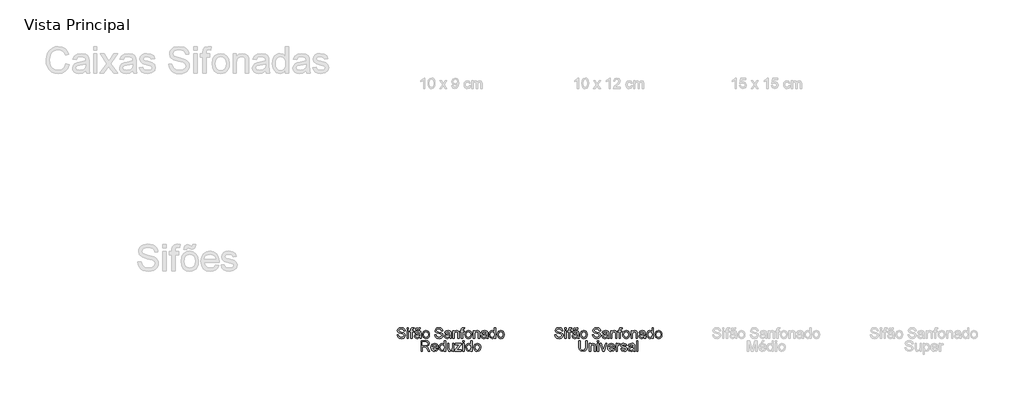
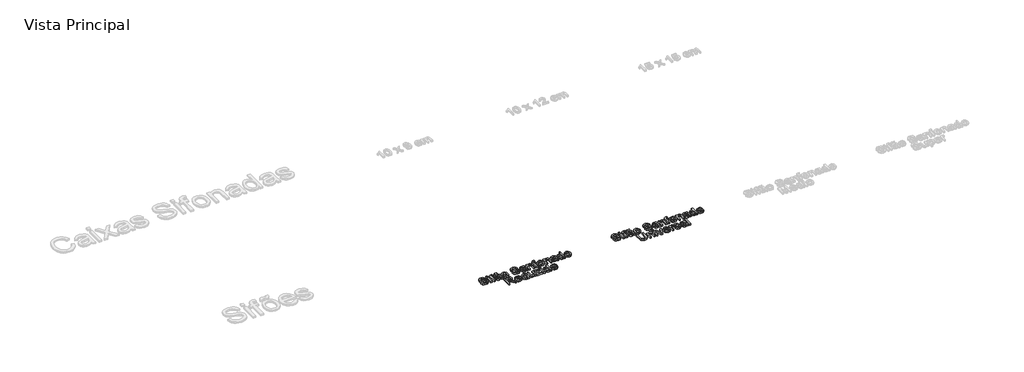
# One storey, part 2 of 5: 2 proxies.
"""IFC4 building model written with IfcOpenShell, lengths in millimetres."""

from ifc_helpers import new_model, si_unit, origin, origin_with_axes, place, context, project, spatial, polyline, outline, extrude, element, save

model = new_model("IFC4")

# Units and contexts
model_context = context("Model", 3, world=origin())
ifc_project = project(units=[si_unit("LENGTHUNIT", "METRE", prefix="MILLI")], contexts=[model_context])

# Site, building, storey
site = spatial("IfcSite", under=ifc_project)
building = spatial("IfcBuilding", under=site)
storey = spatial("IfcBuildingStorey", under=building, Name="Vista Principal", Elevation=0.0)

# Proxies
placement = place(None, origin())
element("IfcBuildingElementProxy", 1, Name="Texto", ObjectType="Texto", at=placement, inside=storey, context=model_context, shape_type="SweptSolid", body=[
    extrude(outline(polyline([(-984.9026785, -1818.6887424), (-977.3684552, -1818.6887424), (-974.940434, -1826.2303233), (-969.0101763, -1830.998074), (-959.9749945, -1832.8154111), (-952.1023198, -1831.4395324), (-947.0181906, -1827.6577055), (-945.3480063, -1822.6030069), (-946.5988051, -1817.901475), (-951.7197225, -1814.4801724), (-962.6899636, -1811.6033352), (-974.4989756, -1807.8877271), (-980.90748, -1802.2812055), (-983.0191226, -1794.791128), (-980.4071605, -1786.2636234), (-972.7772879, -1780.2450739), (-961.6083905, -1778.1922924), (-949.6890139, -1780.3407233), (-941.7427628, -1786.6535783), (-938.755561, -1796.0860727), (-946.2897842, -1796.0860727), (-950.5572154, -1788.3458355), (-961.3140849, -1785.7265157), (-972.100385, -1788.3164049), (-975.4848994, -1794.5703988), (-973.0863088, -1799.7943232), (-960.7843349, -1804.0028932), (-947.4522914, -1807.7847201), (-940.1608702, -1813.8915612), (-937.8137831, -1822.4117082), (-940.5140369, -1831.4248171), (-948.2837047, -1838.0025472), (-959.6806889, -1840.3496343), (-973.1378123, -1837.8186062), (-981.6506016, -1830.1960912), (-984.9026785, -1818.6887424)])), origin_with_axes(), (0.0, 0.0, 1.0), 10.0),
    extrude(outline(polyline([(-927.4542261, -1839.4078564), (-927.4542261, -1795.1442947), (-919.9200028, -1795.1442947), (-919.9200028, -1839.4078564), (-927.4542261, -1839.4078564)])), origin_with_axes(), (0.0, 0.0, 1.0), 10.0),
    extrude(outline(polyline([(-927.4542261, -1786.6682936), (-927.4542261, -1779.1340703), (-919.9200028, -1779.1340703), (-919.9200028, -1786.6682936), (-927.4542261, -1786.6682936)])), origin_with_axes(), (0.0, 0.0, 1.0), 10.0),
    extrude(outline(polyline([(-906.7351121, -1839.4078564), (-906.7351121, -1802.678518), (-913.3275575, -1802.678518), (-913.3275575, -1795.1442947), (-906.7351121, -1795.1442947), (-906.7351121, -1790.685565), (-905.940487, -1784.4021405), (-902.0850837, -1779.9139801), (-894.4919993, -1778.1922924), (-887.6199637, -1779.0163481), (-888.7236096, -1786.0796824), (-893.0646172, -1785.7265157), (-897.8102949, -1786.9773145), (-899.2008889, -1791.6420582), (-899.2008889, -1795.1442947), (-890.7248877, -1795.1442947), (-890.7248877, -1802.678518), (-899.2008889, -1802.678518), (-899.2008889, -1839.4078564), (-906.7351121, -1839.4078564)])), origin_with_axes(), (0.0, 0.0, 1.0), 10.0),
    extrude(outline(polyline([(-855.8791051, -1833.757189), (-863.1852415, -1838.8633911), (-871.2565725, -1840.3496343), (-882.197383, -1836.7738213), (-886.0159982, -1827.6356326), (-884.5739007, -1821.6759442), (-880.7847162, -1817.349652), (-875.5092884, -1814.877485), (-868.9904194, -1813.7444084), (-855.923251, -1811.1545192), (-855.8791051, -1809.4769773), (-857.9539596, -1803.9146015), (-866.2828079, -1801.7367401), (-873.9053229, -1803.1861952), (-877.539997, -1808.3291855), (-885.0742202, -1807.3874075), (-881.8147858, -1800.0297676), (-875.251771, -1795.7181907), (-865.3115995, -1794.2025168), (-856.1807683, -1795.5416073), (-851.0230628, -1798.9040487), (-848.7127638, -1804.0176085), (-848.3448819, -1810.6100538), (-848.3448819, -1819.9836871), (-847.9622846, -1833.0729284), (-846.461326, -1839.4078564), (-853.9955493, -1839.4078564), (-855.8791051, -1833.757189)]), holes=[polyline([(-855.8791051, -1818.6887424), (-868.0339262, -1820.9990414), (-874.516007, -1822.2204096), (-877.4517053, -1824.2069724), (-878.4817749, -1827.1058825), (-876.2376947, -1831.182015), (-869.652607, -1832.8154111), (-862.0300921, -1831.0127893), (-857.1151886, -1826.6497088), (-855.923251, -1820.822458), (-855.8791051, -1818.6887424)])]), origin_with_axes(), (0.0, 0.0, 1.0), 10.0),
    extrude(outline(polyline([(-879.4235528, -1790.4354052), (-877.0838233, -1782.2095638), (-871.0947044, -1779.1340703), (-865.0614397, -1781.5620915), (-862.0153768, -1782.9011819), (-860.4187689, -1782.143345), (-859.6462167, -1779.1340703), (-853.0537714, -1779.1340703), (-855.4450044, -1787.6100715), (-861.2207517, -1790.4354052), (-867.18044, -1788.1398216), (-870.3589404, -1786.6682936), (-872.1542046, -1787.6247868), (-872.8311074, -1790.4354052), (-879.4235528, -1790.4354052)])), origin_with_axes(), (0.0, 0.0, 1.0), 10.0),
    extrude(outline(polyline([(-839.8688807, -1817.2760756), (-838.2391634, -1806.6038189), (-833.3500117, -1799.102705), (-820.0768293, -1794.2025168), (-812.1618482, -1795.6942783), (-805.8397961, -1800.1695628), (-801.6956055, -1807.2752035), (-800.3142086, -1816.6580338), (-802.756945, -1830.0636537), (-809.8717828, -1837.6493805), (-820.0768293, -1840.3496343), (-828.0874598, -1838.8633911), (-834.4021542, -1834.4046613), (-838.5021991, -1827.1500283), (-839.8688807, -1817.2760756)]), holes=[polyline([(-832.3346574, -1817.2613603), (-828.8471361, -1828.9379348), (-820.0768293, -1832.8154111), (-811.3359531, -1828.9158619), (-807.8484318, -1817.0259158), (-811.3580261, -1805.6142163), (-820.0768293, -1801.7367401), (-828.8471361, -1805.599501), (-832.3346574, -1817.2613603)])]), origin_with_axes(), (0.0, 0.0, 1.0), 10.0),
    extrude(outline(polyline([(-770.1773155, -1818.6887424), (-762.6430923, -1818.6887424), (-760.2150711, -1826.2303233), (-754.2848133, -1830.998074), (-745.2496315, -1832.8154111), (-737.3769568, -1831.4395324), (-732.2928277, -1827.6577055), (-730.6226434, -1822.6030069), (-731.8734422, -1817.901475), (-736.9943596, -1814.4801724), (-747.9646006, -1811.6033352), (-759.7736127, -1807.8877271), (-766.182117, -1802.2812055), (-768.2937597, -1794.791128), (-765.6817975, -1786.2636234), (-758.051925, -1780.2450739), (-746.8830276, -1778.1922924), (-734.9636509, -1780.3407233), (-727.0173998, -1786.6535783), (-724.030198, -1796.0860727), (-731.5644213, -1796.0860727), (-735.8318524, -1788.3458355), (-746.588722, -1785.7265157), (-757.3750221, -1788.3164049), (-760.7595364, -1794.5703988), (-758.3609458, -1799.7943232), (-746.0589719, -1804.0028932), (-732.7269284, -1807.7847201), (-725.4355073, -1813.8915612), (-723.0884201, -1822.4117082), (-725.788674, -1831.4248171), (-733.5583417, -1838.0025472), (-744.9553259, -1840.3496343), (-758.4124493, -1837.8186062), (-766.9252387, -1830.1960912), (-770.1773155, -1818.6887424)])), origin_with_axes(), (0.0, 0.0, 1.0), 10.0),
    extrude(outline(polyline([(-684.4755259, -1833.757189), (-691.7816623, -1838.8633911), (-699.8529933, -1840.3496343), (-710.7938039, -1836.7738213), (-714.612419, -1827.6356326), (-713.1703215, -1821.6759442), (-709.381137, -1817.349652), (-704.1057092, -1814.877485), (-697.5868402, -1813.7444084), (-684.5196718, -1811.1545192), (-684.4755259, -1809.4769773), (-686.5503804, -1803.9146015), (-694.8792287, -1801.7367401), (-702.5017437, -1803.1861952), (-706.1364178, -1808.3291855), (-713.6706411, -1807.3874075), (-710.4112066, -1800.0297676), (-703.8481918, -1795.7181907), (-693.9080203, -1794.2025168), (-684.7771892, -1795.5416073), (-679.6194836, -1798.9040487), (-677.3091847, -1804.0176085), (-676.9413027, -1810.6100538), (-676.9413027, -1819.9836871), (-676.5587054, -1833.0729284), (-675.0577468, -1839.4078564), (-682.5919701, -1839.4078564), (-684.4755259, -1833.757189)]), holes=[polyline([(-684.4755259, -1818.6887424), (-696.630347, -1820.9990414), (-703.1124278, -1822.2204096), (-706.0481261, -1824.2069724), (-707.0781957, -1827.1058825), (-704.8341155, -1831.182015), (-698.2490278, -1832.8154111), (-690.6265129, -1831.0127893), (-685.7116094, -1826.6497088), (-684.5196718, -1820.822458), (-684.4755259, -1818.6887424)])]), origin_with_axes(), (0.0, 0.0, 1.0), 10.0),
    extrude(outline(polyline([(-666.5817457, -1839.4078564), (-666.5817457, -1795.1442947), (-659.0475224, -1795.1442947), (-659.0475224, -1801.3247123), (-653.2864904, -1795.9830657), (-645.4211733, -1794.2025168), (-638.3063355, -1795.6372566), (-633.4502932, -1799.4043683), (-631.1914977, -1804.9446711), (-630.7941852, -1812.2287346), (-630.7941852, -1839.4078564), (-638.3284084, -1839.4078564), (-638.3284084, -1813.2440889), (-639.19661, -1806.5780672), (-642.2647458, -1803.0537576), (-647.4371666, -1801.7367401), (-655.6115046, -1804.6945113), (-659.0475224, -1815.9222698), (-659.0475224, -1839.4078564), (-666.5817457, -1839.4078564)])), origin_with_axes(), (0.0, 0.0, 1.0), 10.0),
    extrude(outline(polyline([(-618.5510724, -1839.4078564), (-618.5510724, -1802.678518), (-625.1435177, -1802.678518), (-625.1435177, -1795.1442947), (-618.5510724, -1795.1442947), (-618.5510724, -1790.685565), (-617.7564473, -1784.4021405), (-613.901044, -1779.9139801), (-606.3079596, -1778.1922924), (-599.4359239, -1779.0163481), (-600.5395699, -1786.0796824), (-604.8805774, -1785.7265157), (-609.6262552, -1786.9773145), (-611.0168491, -1791.6420582), (-611.0168491, -1795.1442947), (-602.540848, -1795.1442947), (-602.540848, -1802.678518), (-611.0168491, -1802.678518), (-611.0168491, -1839.4078564), (-618.5510724, -1839.4078564)])), origin_with_axes(), (0.0, 0.0, 1.0), 10.0),
    extrude(outline(polyline([(-597.8319584, -1817.2760756), (-596.2022412, -1806.6038189), (-591.3130895, -1799.102705), (-578.0399071, -1794.2025168), (-570.1249259, -1795.6942783), (-563.8028739, -1800.1695628), (-559.6586832, -1807.2752035), (-558.2772863, -1816.6580338), (-560.7200227, -1830.0636537), (-567.8348605, -1837.6493805), (-578.0399071, -1840.3496343), (-586.0505375, -1838.8633911), (-592.365232, -1834.4046613), (-596.4652768, -1827.1500283), (-597.8319584, -1817.2760756)]), holes=[polyline([(-590.2977352, -1817.2613603), (-586.8102138, -1828.9379348), (-578.0399071, -1832.8154111), (-569.2990309, -1828.9158619), (-565.8115096, -1817.0259158), (-569.3211038, -1805.6142163), (-578.0399071, -1801.7367401), (-586.8102138, -1805.599501), (-590.2977352, -1817.2613603)])]), origin_with_axes(), (0.0, 0.0, 1.0), 10.0),
    extrude(outline(polyline([(-549.8012851, -1839.4078564), (-549.8012851, -1795.1442947), (-542.2670619, -1795.1442947), (-542.2670619, -1801.3247123), (-536.5060298, -1795.9830657), (-528.6407128, -1794.2025168), (-521.525875, -1795.6372566), (-516.6698326, -1799.4043683), (-514.4110372, -1804.9446711), (-514.0137246, -1812.2287346), (-514.0137246, -1839.4078564), (-521.5479479, -1839.4078564), (-521.5479479, -1813.2440889), (-522.4161494, -1806.5780672), (-525.4842852, -1803.0537576), (-530.6567061, -1801.7367401), (-538.831044, -1804.6945113), (-542.2670619, -1815.9222698), (-542.2670619, -1839.4078564), (-549.8012851, -1839.4078564)])), origin_with_axes(), (0.0, 0.0, 1.0), 10.0),
    extrude(outline(polyline([(-475.4008304, -1833.757189), (-482.7069668, -1838.8633911), (-490.7782978, -1840.3496343), (-501.7191084, -1836.7738213), (-505.5377235, -1827.6356326), (-504.095626, -1821.6759442), (-500.3064415, -1817.349652), (-495.0310137, -1814.877485), (-488.5121447, -1813.7444084), (-475.4449763, -1811.1545192), (-475.4008304, -1809.4769773), (-477.4756849, -1803.9146015), (-485.8045332, -1801.7367401), (-493.4270482, -1803.1861952), (-497.0617223, -1808.3291855), (-504.5959456, -1807.3874075), (-501.3365111, -1800.0297676), (-494.7734963, -1795.7181907), (-484.8333248, -1794.2025168), (-475.7024937, -1795.5416073), (-470.5447881, -1798.9040487), (-468.2344892, -1804.0176085), (-467.8666072, -1810.6100538), (-467.8666072, -1819.9836871), (-467.4840099, -1833.0729284), (-465.9830513, -1839.4078564), (-473.5172746, -1839.4078564), (-475.4008304, -1833.757189)]), holes=[polyline([(-475.4008304, -1818.6887424), (-487.5556515, -1820.9990414), (-494.0377323, -1822.2204096), (-496.9734306, -1824.2069724), (-498.0035002, -1827.1058825), (-495.75942, -1831.182015), (-489.1743323, -1832.8154111), (-481.5518174, -1831.0127893), (-476.6369139, -1826.6497088), (-475.4449763, -1820.822458), (-475.4008304, -1818.6887424)])]), origin_with_axes(), (0.0, 0.0, 1.0), 10.0),
    extrude(outline(polyline([(-430.1954909, -1839.4078564), (-430.1954909, -1832.3003763), (-435.1802919, -1838.3373198), (-442.0707217, -1840.3496343), (-451.4002091, -1837.4360089), (-457.9926544, -1829.3058168), (-460.3323839, -1817.3202214), (-458.1765954, -1805.3272684), (-451.7165876, -1797.0719964), (-442.1001522, -1794.2025168), (-435.1545401, -1796.2552984), (-430.1954909, -1801.5895873), (-430.1954909, -1779.1340703), (-422.6612676, -1779.1340703), (-422.6612676, -1839.4078564), (-430.1954909, -1839.4078564)]), holes=[polyline([(-452.7981606, -1817.2907909), (-449.398931, -1828.9526501), (-441.3791035, -1832.8154111), (-433.4549253, -1829.1292335), (-430.1954909, -1817.8646868), (-433.5137864, -1805.6362892), (-441.6881244, -1801.7367401), (-449.6196602, -1805.4817788), (-452.7981606, -1817.2907909)])]), origin_with_axes(), (0.0, 0.0, 1.0), 10.0),
    extrude(outline(polyline([(-413.2434885, -1817.2760756), (-411.6137713, -1806.6038189), (-406.7246196, -1799.102705), (-393.4514372, -1794.2025168), (-385.536456, -1795.6942783), (-379.214404, -1800.1695628), (-375.0702133, -1807.2752035), (-373.6888164, -1816.6580338), (-376.1315528, -1830.0636537), (-383.2463906, -1837.6493805), (-393.4514372, -1840.3496343), (-401.4620676, -1838.8633911), (-407.7767621, -1834.4046613), (-411.8768069, -1827.1500283), (-413.2434885, -1817.2760756)]), holes=[polyline([(-405.7092653, -1817.2613603), (-402.2217439, -1828.9379348), (-393.4514372, -1832.8154111), (-384.710561, -1828.9158619), (-381.2230397, -1817.0259158), (-384.7326339, -1805.6142163), (-393.4514372, -1801.7367401), (-402.2217439, -1805.599501), (-405.7092653, -1817.2613603)])]), origin_with_axes(), (0.0, 0.0, 1.0), 10.0),
    extrude(outline(polyline([(-808.3193208, -1852.318961), (-800.7850975, -1852.318961), (-800.7850975, -1887.0911672), (-802.8305214, -1901.5047838), (-810.2028766, -1910.1867989), (-824.1823924, -1913.534525), (-837.9485367, -1910.6208996), (-845.5857669, -1902.1816867), (-847.8739929, -1887.0911672), (-847.8739929, -1852.318961), (-840.3397696, -1852.318961), (-840.3397696, -1886.8262922), (-838.8535264, -1898.3115681), (-833.7473243, -1903.9990237), (-824.8887258, -1906.0003018), (-812.1305782, -1902.0418915), (-808.3193208, -1886.8262922), (-808.3193208, -1852.318961)])), origin_with_axes(), (0.0, 0.0, 1.0), 10.0),
    extrude(outline(polyline([(-788.5419847, -1912.5927471), (-788.5419847, -1868.3291855), (-781.0077615, -1868.3291855), (-781.0077615, -1874.509603), (-775.2467294, -1869.1679564), (-767.3814124, -1867.3874075), (-760.2665746, -1868.8221473), (-755.4105322, -1872.589259), (-753.1517368, -1878.1295618), (-752.7544242, -1885.4136253), (-752.7544242, -1912.5927471), (-760.2886475, -1912.5927471), (-760.2886475, -1886.4289796), (-761.156849, -1879.7629579), (-764.2249848, -1876.2386484), (-769.3974057, -1874.9216308), (-777.5717436, -1877.879402), (-781.0077615, -1889.1071605), (-781.0077615, -1912.5927471), (-788.5419847, -1912.5927471)])), origin_with_axes(), (0.0, 0.0, 1.0), 10.0),
    extrude(outline(polyline([(-742.3948672, -1859.8531843), (-742.3948672, -1852.318961), (-734.860644, -1852.318961), (-734.860644, -1859.8531843), (-742.3948672, -1859.8531843)])), origin_with_axes(), (0.0, 0.0, 1.0), 10.0),
    extrude(outline(polyline([(-742.3948672, -1912.5927471), (-742.3948672, -1868.3291855), (-734.860644, -1868.3291855), (-734.860644, -1912.5927471), (-742.3948672, -1912.5927471)])), origin_with_axes(), (0.0, 0.0, 1.0), 10.0),
    extrude(outline(polyline([(-712.6994326, -1912.5927471), (-728.2681986, -1868.3291855), (-720.292517, -1868.3291855), (-710.8600226, -1894.8461197), (-708.0199736, -1903.7635792), (-705.2387857, -1895.3464392), (-695.7474303, -1868.3291855), (-687.7717486, -1868.3291855), (-703.149216, -1912.5927471), (-712.6994326, -1912.5927471)])), origin_with_axes(), (0.0, 0.0, 1.0), 10.0),
    extrude(outline(polyline([(-650.188924, -1899.4078564), (-642.8018535, -1900.3496343), (-649.7106774, -1910.0764343), (-662.5791896, -1913.534525), (-671.4193939, -1912.0427635), (-678.221532, -1907.5674791), (-682.5588607, -1900.3992984), (-684.004637, -1890.8288483), (-682.5441454, -1880.9365014), (-678.1626709, -1873.5383945), (-671.4525033, -1868.9251543), (-663.0059327, -1867.3874075), (-654.8223977, -1868.9214755), (-648.2832952, -1873.5236792), (-643.9956306, -1880.9070709), (-642.566409, -1890.7847024), (-642.6105549, -1892.8154111), (-676.4704137, -1892.8154111), (-672.1367638, -1902.6010721), (-662.4320368, -1906.0003018), (-655.0449663, -1904.4257668), (-650.188924, -1899.4078564)]), holes=[polyline([(-676.4704137, -1885.2811878), (-650.1006323, -1885.2811878), (-653.1172646, -1878.453298), (-663.0353632, -1874.9216308), (-672.3133472, -1877.7396069), (-676.4704137, -1885.2811878)])]), origin_with_axes(), (0.0, 0.0, 1.0), 10.0),
    extrude(outline(polyline([(-635.0321858, -1912.5927471), (-635.0321858, -1868.3291855), (-628.4397404, -1868.3291855), (-628.4397404, -1874.877485), (-623.7602814, -1868.8442202), (-619.0513919, -1867.3874075), (-611.4877381, -1869.7124218), (-614.0040509, -1876.4667352), (-619.3015517, -1874.9216308), (-623.5616252, -1876.4078741), (-626.2765943, -1880.5281524), (-627.4979625, -1889.3278897), (-627.4979625, -1912.5927471), (-635.0321858, -1912.5927471)])), origin_with_axes(), (0.0, 0.0, 1.0), 10.0),
    extrude(outline(polyline([(-609.6041823, -1899.4078564), (-602.069959, -1898.4660785), (-598.5824377, -1904.0578848), (-590.5920407, -1906.0003018), (-582.9106647, -1904.2197529), (-580.4090671, -1900.0406134), (-582.92538, -1896.6560991), (-590.6803324, -1894.5076682), (-602.0258132, -1890.8214906), (-606.9775048, -1886.5172713), (-608.6624044, -1880.4398607), (-607.3085986, -1874.8259815), (-603.6150634, -1870.5364774), (-598.8252398, -1868.3071125), (-592.343159, -1867.3874075), (-583.1755397, -1868.8662932), (-577.3482889, -1872.8688493), (-574.7583997, -1879.6305203), (-582.2926229, -1880.5722983), (-585.1253143, -1876.4152317), (-591.7545479, -1874.9216308), (-598.965035, -1876.3490129), (-601.1281811, -1879.6746662), (-600.230549, -1881.8672429), (-597.4199306, -1883.5300695), (-590.9304922, -1885.134035), (-579.8719594, -1888.6804174), (-574.7363268, -1892.6976888), (-572.8748439, -1899.2459883), (-575.0600629, -1906.4564754), (-581.3655603, -1911.6877574), (-590.6950477, -1913.534525), (-603.8357926, -1909.9734273), (-609.6041823, -1899.4078564)])), origin_with_axes(), (0.0, 0.0, 1.0), 10.0),
    extrude(outline(polyline([(-536.1455055, -1906.9420797), (-543.4516419, -1912.0482818), (-551.5229729, -1913.534525), (-562.4637834, -1909.958712), (-566.2823985, -1900.8205233), (-564.8403011, -1894.8608349), (-561.0511165, -1890.5345427), (-555.7756887, -1888.0623757), (-549.2568198, -1886.9292991), (-536.1896513, -1884.3394099), (-536.1455055, -1882.661868), (-538.2203599, -1877.0994922), (-546.5492083, -1874.9216308), (-554.1717232, -1876.3710859), (-557.8063973, -1881.5140762), (-565.3406206, -1880.5722983), (-562.0811861, -1873.2146583), (-555.5181713, -1868.9030814), (-545.5779998, -1867.3874075), (-536.4471687, -1868.726498), (-531.2894631, -1872.0889394), (-528.9791642, -1877.2024992), (-528.6112822, -1883.7949445), (-528.6112822, -1893.1685778), (-528.2286849, -1906.2578192), (-526.7277264, -1912.5927471), (-534.2619496, -1912.5927471), (-536.1455055, -1906.9420797)]), holes=[polyline([(-536.1455055, -1891.8736331), (-548.3003266, -1894.1839321), (-554.7824073, -1895.4053003), (-557.7181057, -1897.3918631), (-558.7481752, -1900.2907732), (-556.5040951, -1904.3669057), (-549.9190074, -1906.0003018), (-542.2964924, -1904.19768), (-537.381589, -1899.8345995), (-536.1896513, -1894.0073487), (-536.1455055, -1891.8736331)])]), origin_with_axes(), (0.0, 0.0, 1.0), 10.0),
    extrude(outline(polyline([(-518.2517252, -1912.5927471), (-518.2517252, -1852.318961), (-510.717502, -1852.318961), (-510.717502, -1912.5927471), (-518.2517252, -1912.5927471)])), origin_with_axes(), (0.0, 0.0, 1.0), 10.0),
])
element("IfcBuildingElementProxy", 2, Name="Texto", ObjectType="Texto", at=placement, inside=storey, context=model_context, shape_type="SweptSolid", body=[
    extrude(outline(polyline([(-1884.9026785, -1818.6887424), (-1877.3684552, -1818.6887424), (-1874.940434, -1826.2303233), (-1869.0101763, -1830.998074), (-1859.9749945, -1832.8154111), (-1852.1023198, -1831.4395324), (-1847.0181906, -1827.6577055), (-1845.3480063, -1822.6030069), (-1846.5988051, -1817.901475), (-1851.7197225, -1814.4801724), (-1862.6899636, -1811.6033352), (-1874.4989756, -1807.8877271), (-1880.90748, -1802.2812055), (-1883.0191226, -1794.791128), (-1880.4071605, -1786.2636234), (-1872.7772879, -1780.2450739), (-1861.6083905, -1778.1922924), (-1849.6890139, -1780.3407233), (-1841.7427628, -1786.6535783), (-1838.755561, -1796.0860727), (-1846.2897842, -1796.0860727), (-1850.5572154, -1788.3458355), (-1861.3140849, -1785.7265157), (-1872.100385, -1788.3164049), (-1875.4848994, -1794.5703988), (-1873.0863088, -1799.7943232), (-1860.7843349, -1804.0028932), (-1847.4522914, -1807.7847201), (-1840.1608702, -1813.8915612), (-1837.8137831, -1822.4117082), (-1840.5140369, -1831.4248171), (-1848.2837047, -1838.0025472), (-1859.6806889, -1840.3496343), (-1873.1378123, -1837.8186062), (-1881.6506016, -1830.1960912), (-1884.9026785, -1818.6887424)])), origin_with_axes(), (0.0, 0.0, 1.0), 10.0),
    extrude(outline(polyline([(-1827.4542261, -1839.4078564), (-1827.4542261, -1795.1442947), (-1819.9200028, -1795.1442947), (-1819.9200028, -1839.4078564), (-1827.4542261, -1839.4078564)])), origin_with_axes(), (0.0, 0.0, 1.0), 10.0),
    extrude(outline(polyline([(-1827.4542261, -1786.6682936), (-1827.4542261, -1779.1340703), (-1819.9200028, -1779.1340703), (-1819.9200028, -1786.6682936), (-1827.4542261, -1786.6682936)])), origin_with_axes(), (0.0, 0.0, 1.0), 10.0),
    extrude(outline(polyline([(-1806.7351121, -1839.4078564), (-1806.7351121, -1802.678518), (-1813.3275575, -1802.678518), (-1813.3275575, -1795.1442947), (-1806.7351121, -1795.1442947), (-1806.7351121, -1790.685565), (-1805.940487, -1784.4021405), (-1802.0850837, -1779.9139801), (-1794.4919993, -1778.1922924), (-1787.6199637, -1779.0163481), (-1788.7236096, -1786.0796824), (-1793.0646172, -1785.7265157), (-1797.8102949, -1786.9773145), (-1799.2008889, -1791.6420582), (-1799.2008889, -1795.1442947), (-1790.7248877, -1795.1442947), (-1790.7248877, -1802.678518), (-1799.2008889, -1802.678518), (-1799.2008889, -1839.4078564), (-1806.7351121, -1839.4078564)])), origin_with_axes(), (0.0, 0.0, 1.0), 10.0),
    extrude(outline(polyline([(-1755.8791051, -1833.757189), (-1763.1852415, -1838.8633911), (-1771.2565725, -1840.3496343), (-1782.197383, -1836.7738213), (-1786.0159982, -1827.6356326), (-1784.5739007, -1821.6759442), (-1780.7847162, -1817.349652), (-1775.5092884, -1814.877485), (-1768.9904194, -1813.7444084), (-1755.923251, -1811.1545192), (-1755.8791051, -1809.4769773), (-1757.9539596, -1803.9146015), (-1766.2828079, -1801.7367401), (-1773.9053229, -1803.1861952), (-1777.539997, -1808.3291855), (-1785.0742202, -1807.3874075), (-1781.8147858, -1800.0297676), (-1775.251771, -1795.7181907), (-1765.3115995, -1794.2025168), (-1756.1807683, -1795.5416073), (-1751.0230628, -1798.9040487), (-1748.7127638, -1804.0176085), (-1748.3448819, -1810.6100538), (-1748.3448819, -1819.9836871), (-1747.9622846, -1833.0729284), (-1746.461326, -1839.4078564), (-1753.9955493, -1839.4078564), (-1755.8791051, -1833.757189)]), holes=[polyline([(-1755.8791051, -1818.6887424), (-1768.0339262, -1820.9990414), (-1774.516007, -1822.2204096), (-1777.4517053, -1824.2069724), (-1778.4817749, -1827.1058825), (-1776.2376947, -1831.182015), (-1769.652607, -1832.8154111), (-1762.0300921, -1831.0127893), (-1757.1151886, -1826.6497088), (-1755.923251, -1820.822458), (-1755.8791051, -1818.6887424)])]), origin_with_axes(), (0.0, 0.0, 1.0), 10.0),
    extrude(outline(polyline([(-1779.4235528, -1790.4354052), (-1777.0838233, -1782.2095638), (-1771.0947044, -1779.1340703), (-1765.0614397, -1781.5620915), (-1762.0153768, -1782.9011819), (-1760.4187689, -1782.143345), (-1759.6462167, -1779.1340703), (-1753.0537714, -1779.1340703), (-1755.4450044, -1787.6100715), (-1761.2207517, -1790.4354052), (-1767.18044, -1788.1398216), (-1770.3589404, -1786.6682936), (-1772.1542046, -1787.6247868), (-1772.8311074, -1790.4354052), (-1779.4235528, -1790.4354052)])), origin_with_axes(), (0.0, 0.0, 1.0), 10.0),
    extrude(outline(polyline([(-1739.8688807, -1817.2760756), (-1738.2391634, -1806.6038189), (-1733.3500117, -1799.102705), (-1720.0768293, -1794.2025168), (-1712.1618482, -1795.6942783), (-1705.8397961, -1800.1695628), (-1701.6956055, -1807.2752035), (-1700.3142086, -1816.6580338), (-1702.756945, -1830.0636537), (-1709.8717828, -1837.6493805), (-1720.0768293, -1840.3496343), (-1728.0874598, -1838.8633911), (-1734.4021542, -1834.4046613), (-1738.5021991, -1827.1500283), (-1739.8688807, -1817.2760756)]), holes=[polyline([(-1732.3346574, -1817.2613603), (-1728.8471361, -1828.9379348), (-1720.0768293, -1832.8154111), (-1711.3359531, -1828.9158619), (-1707.8484318, -1817.0259158), (-1711.3580261, -1805.6142163), (-1720.0768293, -1801.7367401), (-1728.8471361, -1805.599501), (-1732.3346574, -1817.2613603)])]), origin_with_axes(), (0.0, 0.0, 1.0), 10.0),
    extrude(outline(polyline([(-1670.1773155, -1818.6887424), (-1662.6430923, -1818.6887424), (-1660.2150711, -1826.2303233), (-1654.2848133, -1830.998074), (-1645.2496315, -1832.8154111), (-1637.3769568, -1831.4395324), (-1632.2928277, -1827.6577055), (-1630.6226434, -1822.6030069), (-1631.8734422, -1817.901475), (-1636.9943596, -1814.4801724), (-1647.9646006, -1811.6033352), (-1659.7736127, -1807.8877271), (-1666.182117, -1802.2812055), (-1668.2937597, -1794.791128), (-1665.6817975, -1786.2636234), (-1658.051925, -1780.2450739), (-1646.8830276, -1778.1922924), (-1634.9636509, -1780.3407233), (-1627.0173998, -1786.6535783), (-1624.030198, -1796.0860727), (-1631.5644213, -1796.0860727), (-1635.8318524, -1788.3458355), (-1646.588722, -1785.7265157), (-1657.3750221, -1788.3164049), (-1660.7595364, -1794.5703988), (-1658.3609458, -1799.7943232), (-1646.0589719, -1804.0028932), (-1632.7269284, -1807.7847201), (-1625.4355073, -1813.8915612), (-1623.0884201, -1822.4117082), (-1625.788674, -1831.4248171), (-1633.5583417, -1838.0025472), (-1644.9553259, -1840.3496343), (-1658.4124493, -1837.8186062), (-1666.9252387, -1830.1960912), (-1670.1773155, -1818.6887424)])), origin_with_axes(), (0.0, 0.0, 1.0), 10.0),
    extrude(outline(polyline([(-1584.4755259, -1833.757189), (-1591.7816623, -1838.8633911), (-1599.8529933, -1840.3496343), (-1610.7938039, -1836.7738213), (-1614.612419, -1827.6356326), (-1613.1703215, -1821.6759442), (-1609.381137, -1817.349652), (-1604.1057092, -1814.877485), (-1597.5868402, -1813.7444084), (-1584.5196718, -1811.1545192), (-1584.4755259, -1809.4769773), (-1586.5503804, -1803.9146015), (-1594.8792287, -1801.7367401), (-1602.5017437, -1803.1861952), (-1606.1364178, -1808.3291855), (-1613.6706411, -1807.3874075), (-1610.4112066, -1800.0297676), (-1603.8481918, -1795.7181907), (-1593.9080203, -1794.2025168), (-1584.7771892, -1795.5416073), (-1579.6194836, -1798.9040487), (-1577.3091847, -1804.0176085), (-1576.9413027, -1810.6100538), (-1576.9413027, -1819.9836871), (-1576.5587054, -1833.0729284), (-1575.0577468, -1839.4078564), (-1582.5919701, -1839.4078564), (-1584.4755259, -1833.757189)]), holes=[polyline([(-1584.4755259, -1818.6887424), (-1596.630347, -1820.9990414), (-1603.1124278, -1822.2204096), (-1606.0481261, -1824.2069724), (-1607.0781957, -1827.1058825), (-1604.8341155, -1831.182015), (-1598.2490278, -1832.8154111), (-1590.6265129, -1831.0127893), (-1585.7116094, -1826.6497088), (-1584.5196718, -1820.822458), (-1584.4755259, -1818.6887424)])]), origin_with_axes(), (0.0, 0.0, 1.0), 10.0),
    extrude(outline(polyline([(-1566.5817457, -1839.4078564), (-1566.5817457, -1795.1442947), (-1559.0475224, -1795.1442947), (-1559.0475224, -1801.3247123), (-1553.2864904, -1795.9830657), (-1545.4211733, -1794.2025168), (-1538.3063355, -1795.6372566), (-1533.4502932, -1799.4043683), (-1531.1914977, -1804.9446711), (-1530.7941852, -1812.2287346), (-1530.7941852, -1839.4078564), (-1538.3284084, -1839.4078564), (-1538.3284084, -1813.2440889), (-1539.19661, -1806.5780672), (-1542.2647458, -1803.0537576), (-1547.4371666, -1801.7367401), (-1555.6115046, -1804.6945113), (-1559.0475224, -1815.9222698), (-1559.0475224, -1839.4078564), (-1566.5817457, -1839.4078564)])), origin_with_axes(), (0.0, 0.0, 1.0), 10.0),
    extrude(outline(polyline([(-1518.5510724, -1839.4078564), (-1518.5510724, -1802.678518), (-1525.1435177, -1802.678518), (-1525.1435177, -1795.1442947), (-1518.5510724, -1795.1442947), (-1518.5510724, -1790.685565), (-1517.7564473, -1784.4021405), (-1513.901044, -1779.9139801), (-1506.3079596, -1778.1922924), (-1499.4359239, -1779.0163481), (-1500.5395699, -1786.0796824), (-1504.8805774, -1785.7265157), (-1509.6262552, -1786.9773145), (-1511.0168491, -1791.6420582), (-1511.0168491, -1795.1442947), (-1502.540848, -1795.1442947), (-1502.540848, -1802.678518), (-1511.0168491, -1802.678518), (-1511.0168491, -1839.4078564), (-1518.5510724, -1839.4078564)])), origin_with_axes(), (0.0, 0.0, 1.0), 10.0),
    extrude(outline(polyline([(-1497.8319584, -1817.2760756), (-1496.2022412, -1806.6038189), (-1491.3130895, -1799.102705), (-1478.0399071, -1794.2025168), (-1470.1249259, -1795.6942783), (-1463.8028739, -1800.1695628), (-1459.6586832, -1807.2752035), (-1458.2772863, -1816.6580338), (-1460.7200227, -1830.0636537), (-1467.8348605, -1837.6493805), (-1478.0399071, -1840.3496343), (-1486.0505375, -1838.8633911), (-1492.365232, -1834.4046613), (-1496.4652768, -1827.1500283), (-1497.8319584, -1817.2760756)]), holes=[polyline([(-1490.2977352, -1817.2613603), (-1486.8102138, -1828.9379348), (-1478.0399071, -1832.8154111), (-1469.2990309, -1828.9158619), (-1465.8115096, -1817.0259158), (-1469.3211038, -1805.6142163), (-1478.0399071, -1801.7367401), (-1486.8102138, -1805.599501), (-1490.2977352, -1817.2613603)])]), origin_with_axes(), (0.0, 0.0, 1.0), 10.0),
    extrude(outline(polyline([(-1449.8012851, -1839.4078564), (-1449.8012851, -1795.1442947), (-1442.2670619, -1795.1442947), (-1442.2670619, -1801.3247123), (-1436.5060298, -1795.9830657), (-1428.6407128, -1794.2025168), (-1421.525875, -1795.6372566), (-1416.6698326, -1799.4043683), (-1414.4110372, -1804.9446711), (-1414.0137246, -1812.2287346), (-1414.0137246, -1839.4078564), (-1421.5479479, -1839.4078564), (-1421.5479479, -1813.2440889), (-1422.4161494, -1806.5780672), (-1425.4842852, -1803.0537576), (-1430.6567061, -1801.7367401), (-1438.831044, -1804.6945113), (-1442.2670619, -1815.9222698), (-1442.2670619, -1839.4078564), (-1449.8012851, -1839.4078564)])), origin_with_axes(), (0.0, 0.0, 1.0), 10.0),
    extrude(outline(polyline([(-1375.4008304, -1833.757189), (-1382.7069668, -1838.8633911), (-1390.7782978, -1840.3496343), (-1401.7191084, -1836.7738213), (-1405.5377235, -1827.6356326), (-1404.095626, -1821.6759442), (-1400.3064415, -1817.349652), (-1395.0310137, -1814.877485), (-1388.5121447, -1813.7444084), (-1375.4449763, -1811.1545192), (-1375.4008304, -1809.4769773), (-1377.4756849, -1803.9146015), (-1385.8045332, -1801.7367401), (-1393.4270482, -1803.1861952), (-1397.0617223, -1808.3291855), (-1404.5959456, -1807.3874075), (-1401.3365111, -1800.0297676), (-1394.7734963, -1795.7181907), (-1384.8333248, -1794.2025168), (-1375.7024937, -1795.5416073), (-1370.5447881, -1798.9040487), (-1368.2344892, -1804.0176085), (-1367.8666072, -1810.6100538), (-1367.8666072, -1819.9836871), (-1367.4840099, -1833.0729284), (-1365.9830513, -1839.4078564), (-1373.5172746, -1839.4078564), (-1375.4008304, -1833.757189)]), holes=[polyline([(-1375.4008304, -1818.6887424), (-1387.5556515, -1820.9990414), (-1394.0377323, -1822.2204096), (-1396.9734306, -1824.2069724), (-1398.0035002, -1827.1058825), (-1395.75942, -1831.182015), (-1389.1743323, -1832.8154111), (-1381.5518174, -1831.0127893), (-1376.6369139, -1826.6497088), (-1375.4449763, -1820.822458), (-1375.4008304, -1818.6887424)])]), origin_with_axes(), (0.0, 0.0, 1.0), 10.0),
    extrude(outline(polyline([(-1330.1954909, -1839.4078564), (-1330.1954909, -1832.3003763), (-1335.1802919, -1838.3373198), (-1342.0707217, -1840.3496343), (-1351.4002091, -1837.4360089), (-1357.9926544, -1829.3058168), (-1360.3323839, -1817.3202214), (-1358.1765954, -1805.3272684), (-1351.7165876, -1797.0719964), (-1342.1001522, -1794.2025168), (-1335.1545401, -1796.2552984), (-1330.1954909, -1801.5895873), (-1330.1954909, -1779.1340703), (-1322.6612676, -1779.1340703), (-1322.6612676, -1839.4078564), (-1330.1954909, -1839.4078564)]), holes=[polyline([(-1352.7981606, -1817.2907909), (-1349.398931, -1828.9526501), (-1341.3791035, -1832.8154111), (-1333.4549253, -1829.1292335), (-1330.1954909, -1817.8646868), (-1333.5137864, -1805.6362892), (-1341.6881244, -1801.7367401), (-1349.6196602, -1805.4817788), (-1352.7981606, -1817.2907909)])]), origin_with_axes(), (0.0, 0.0, 1.0), 10.0),
    extrude(outline(polyline([(-1313.2434885, -1817.2760756), (-1311.6137713, -1806.6038189), (-1306.7246196, -1799.102705), (-1293.4514372, -1794.2025168), (-1285.536456, -1795.6942783), (-1279.214404, -1800.1695628), (-1275.0702133, -1807.2752035), (-1273.6888164, -1816.6580338), (-1276.1315528, -1830.0636537), (-1283.2463906, -1837.6493805), (-1293.4514372, -1840.3496343), (-1301.4620676, -1838.8633911), (-1307.7767621, -1834.4046613), (-1311.8768069, -1827.1500283), (-1313.2434885, -1817.2760756)]), holes=[polyline([(-1305.7092653, -1817.2613603), (-1302.2217439, -1828.9379348), (-1293.4514372, -1832.8154111), (-1284.710561, -1828.9158619), (-1281.2230397, -1817.0259158), (-1284.7326339, -1805.6142163), (-1293.4514372, -1801.7367401), (-1302.2217439, -1805.599501), (-1305.7092653, -1817.2613603)])]), origin_with_axes(), (0.0, 0.0, 1.0), 10.0),
    extrude(outline(polyline([(-1748.3448819, -1912.5927471), (-1748.3448819, -1852.318961), (-1722.372413, -1852.318961), (-1710.3132412, -1853.9449994), (-1703.7207958, -1859.6986738), (-1701.2559865, -1868.8147897), (-1705.3394766, -1879.6746662), (-1717.957829, -1885.2811878), (-1713.6756826, -1888.5038341), (-1707.5688415, -1896.2587865), (-1697.5183054, -1912.5927471), (-1706.2738969, -1912.5927471), (-1714.117141, -1900.0994746), (-1719.7825237, -1891.8294873), (-1723.7630069, -1887.9225805), (-1727.3461776, -1886.4878407), (-1731.7166157, -1886.2229657), (-1740.8106586, -1886.2229657), (-1740.8106586, -1912.5927471), (-1748.3448819, -1912.5927471)]), holes=[polyline([(-1740.8106586, -1878.6887424), (-1723.9469479, -1878.6887424), (-1715.3458669, -1877.6218847), (-1710.460394, -1874.2079397), (-1708.7902097, -1869.09438), (-1711.9760678, -1862.4577888), (-1722.0486768, -1859.8531843), (-1740.8106586, -1859.8531843), (-1740.8106586, -1878.6887424)])]), origin_with_axes(), (0.0, 0.0, 1.0), 10.0),
    extrude(outline(polyline([(-1658.0224944, -1899.4078564), (-1650.6354239, -1900.3496343), (-1657.5442478, -1910.0764343), (-1670.41276, -1913.534525), (-1679.2529643, -1912.0427635), (-1686.0551024, -1907.5674791), (-1690.3924312, -1900.3992984), (-1691.8382074, -1890.8288483), (-1690.3777159, -1880.9365014), (-1685.9962413, -1873.5383945), (-1679.2860737, -1868.9251543), (-1670.8395031, -1867.3874075), (-1662.6559681, -1868.9214755), (-1656.1168657, -1873.5236792), (-1651.829201, -1880.9070709), (-1650.3999795, -1890.7847024), (-1650.4441253, -1892.8154111), (-1684.3039841, -1892.8154111), (-1679.9703342, -1902.6010721), (-1670.2656072, -1906.0003018), (-1662.8785367, -1904.4257668), (-1658.0224944, -1899.4078564)]), holes=[polyline([(-1684.3039841, -1885.2811878), (-1657.9342027, -1885.2811878), (-1660.9508351, -1878.453298), (-1670.8689337, -1874.9216308), (-1680.1469176, -1877.7396069), (-1684.3039841, -1885.2811878)])]), origin_with_axes(), (0.0, 0.0, 1.0), 10.0),
    extrude(outline(polyline([(-1615.5541969, -1912.5927471), (-1615.5541969, -1905.485267), (-1620.5389979, -1911.5222105), (-1627.4294277, -1913.534525), (-1636.7589151, -1910.6208996), (-1643.3513604, -1902.4907075), (-1645.6910899, -1890.5051121), (-1643.5353014, -1878.5121591), (-1637.0752936, -1870.2568871), (-1627.4588582, -1867.3874075), (-1620.5132462, -1869.4401891), (-1615.5541969, -1874.774478), (-1615.5541969, -1852.318961), (-1608.0199736, -1852.318961), (-1608.0199736, -1912.5927471), (-1615.5541969, -1912.5927471)]), holes=[polyline([(-1638.1568667, -1890.4756816), (-1634.757637, -1902.1375408), (-1626.7378095, -1906.0003018), (-1618.8136313, -1902.3141242), (-1615.5541969, -1891.0495775), (-1618.8724925, -1878.82118), (-1627.0468304, -1874.9216308), (-1634.9783662, -1878.6666695), (-1638.1568667, -1890.4756816)])]), origin_with_axes(), (0.0, 0.0, 1.0), 10.0),
    extrude(outline(polyline([(-1568.4653015, -1912.5927471), (-1568.4653015, -1904.9849475), (-1574.3661287, -1911.3971306), (-1582.06222, -1913.534525), (-1589.1476273, -1912.0335665), (-1594.0331002, -1908.2664549), (-1596.2771803, -1902.7187944), (-1596.7186387, -1895.7143212), (-1596.7186387, -1868.3291855), (-1589.1844155, -1868.3291855), (-1589.1844155, -1892.1679387), (-1588.7282418, -1899.8493148), (-1585.7483976, -1904.3595481), (-1580.1345184, -1906.0003018), (-1573.8437363, -1904.3227599), (-1569.6866697, -1899.7536655), (-1568.4653015, -1891.3585984), (-1568.4653015, -1868.3291855), (-1560.9310782, -1868.3291855), (-1560.9310782, -1912.5927471), (-1568.4653015, -1912.5927471)])), origin_with_axes(), (0.0, 0.0, 1.0), 10.0),
    extrude(outline(polyline([(-1555.2804108, -1912.5927471), (-1555.2804108, -1905.4999822), (-1529.2785114, -1875.8634087), (-1536.9746027, -1875.8634087), (-1553.396855, -1875.8634087), (-1553.396855, -1868.3291855), (-1518.5510724, -1868.3291855), (-1518.5510724, -1874.7303322), (-1541.6099158, -1901.0265372), (-1545.141583, -1905.0585239), (-1536.4301373, -1905.0585239), (-1517.6092945, -1905.0585239), (-1517.6092945, -1912.5927471), (-1555.2804108, -1912.5927471)])), origin_with_axes(), (0.0, 0.0, 1.0), 10.0),
    extrude(outline(polyline([(-1510.0750712, -1859.8531843), (-1510.0750712, -1852.318961), (-1502.540848, -1852.318961), (-1502.540848, -1859.8531843), (-1510.0750712, -1859.8531843)])), origin_with_axes(), (0.0, 0.0, 1.0), 10.0),
    extrude(outline(polyline([(-1510.0750712, -1912.5927471), (-1510.0750712, -1868.3291855), (-1502.540848, -1868.3291855), (-1502.540848, -1912.5927471), (-1510.0750712, -1912.5927471)])), origin_with_axes(), (0.0, 0.0, 1.0), 10.0),
    extrude(outline(polyline([(-1463.9279537, -1912.5927471), (-1463.9279537, -1905.485267), (-1468.9127548, -1911.5222105), (-1475.8031845, -1913.534525), (-1485.1326719, -1910.6208996), (-1491.7251173, -1902.4907075), (-1494.0648468, -1890.5051121), (-1491.9090583, -1878.5121591), (-1485.4490505, -1870.2568871), (-1475.8326151, -1867.3874075), (-1468.887003, -1869.4401891), (-1463.9279537, -1874.774478), (-1463.9279537, -1852.318961), (-1456.3937305, -1852.318961), (-1456.3937305, -1912.5927471), (-1463.9279537, -1912.5927471)]), holes=[polyline([(-1486.5306235, -1890.4756816), (-1483.1313939, -1902.1375408), (-1475.1115664, -1906.0003018), (-1467.1873882, -1902.3141242), (-1463.9279537, -1891.0495775), (-1467.2462493, -1878.82118), (-1475.4205873, -1874.9216308), (-1483.3521231, -1878.6666695), (-1486.5306235, -1890.4756816)])]), origin_with_axes(), (0.0, 0.0, 1.0), 10.0),
    extrude(outline(polyline([(-1446.9759514, -1890.4609663), (-1445.3462342, -1879.7887096), (-1440.4570824, -1872.2875957), (-1427.1839001, -1867.3874075), (-1419.2689189, -1868.879169), (-1412.9468668, -1873.3544535), (-1408.8026762, -1880.4600942), (-1407.4212793, -1889.8429245), (-1409.8640157, -1903.2485444), (-1416.9788535, -1910.8342712), (-1427.1839001, -1913.534525), (-1435.1945305, -1912.0482818), (-1441.509225, -1907.589552), (-1445.6092698, -1900.334919), (-1446.9759514, -1890.4609663)]), holes=[polyline([(-1439.4417281, -1890.446251), (-1435.9542068, -1902.1228255), (-1427.1839001, -1906.0003018), (-1418.4430239, -1902.1007526), (-1414.9555025, -1890.2108065), (-1418.4650968, -1878.799107), (-1427.1839001, -1874.9216308), (-1435.9542068, -1878.7843918), (-1439.4417281, -1890.446251)])]), origin_with_axes(), (0.0, 0.0, 1.0), 10.0),
])

save(model, "model.ifc")
